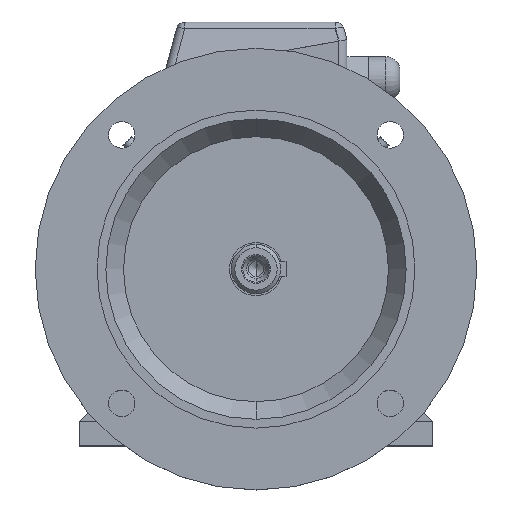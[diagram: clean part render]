
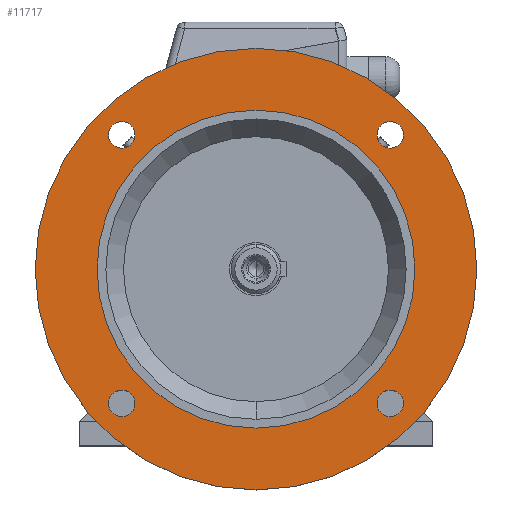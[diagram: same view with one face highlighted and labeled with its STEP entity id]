
A CAD part, top view. The second image highlights one B-rep face of the part: STEP entity #11717.
In plain terms, the highlighted planar face has unit normal (0, 0, 1).
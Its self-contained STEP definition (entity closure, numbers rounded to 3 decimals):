
#61 = EDGE_CURVE ( 'NONE', #6512, #14083, #1038, .T. ) ;
#16478 = CIRCLE ( 'NONE', #16479, 7.5 ) ;
#16479 = AXIS2_PLACEMENT_3D ( 'NONE', #16480, #16481, #16482 ) ;
#16480 = CARTESIAN_POINT ( 'NONE',  ( -76.014, -76.014, 45. ) ) ;
#16481 = DIRECTION ( 'NONE',  ( 0., 0., 1. ) ) ;
#16482 = DIRECTION ( 'NONE',  ( 1., 0., 0. ) ) ;
#16626 = EDGE_LOOP ( 'NONE', ( #5691, #14670 ) ) ;
#16634 = CARTESIAN_POINT ( 'NONE',  ( 68.514, -76.014, 45. ) ) ;
#340 = EDGE_CURVE ( 'NONE', #540, #6417, #2006, .T. ) ;
#16721 = CARTESIAN_POINT ( 'NONE',  ( 0., -90., 45. ) ) ;
#16759 = EDGE_CURVE ( 'NONE', #16347, #15030, #16967, .T. ) ;
#515 = ORIENTED_EDGE ( 'NONE', *, *, #19303, .F. ) ;
#540 = VERTEX_POINT ( 'NONE', #2759 ) ;
#16967 = CIRCLE ( 'NONE', #16968, 90. ) ;
#16968 = AXIS2_PLACEMENT_3D ( 'NONE', #16969, #16970, #16971 ) ;
#16969 = CARTESIAN_POINT ( 'NONE',  ( 0., 0., 45. ) ) ;
#16970 = DIRECTION ( 'NONE',  ( 0., 0., -1. ) ) ;
#16971 = DIRECTION ( 'NONE',  ( 0., 1., 0. ) ) ;
#17115 = ORIENTED_EDGE ( 'NONE', *, *, #16759, .T. ) ;
#760 = ORIENTED_EDGE ( 'NONE', *, *, #61, .F. ) ;
#1038 = CIRCLE ( 'NONE', #1039, 7.5 ) ;
#1039 = AXIS2_PLACEMENT_3D ( 'NONE', #1040, #1041, #1042 ) ;
#1040 = CARTESIAN_POINT ( 'NONE',  ( 76.014, 76.014, 45. ) ) ;
#1041 = DIRECTION ( 'NONE',  ( 0., 0., 1. ) ) ;
#1042 = DIRECTION ( 'NONE',  ( 1., 0., 0. ) ) ;
#18329 = EDGE_LOOP ( 'NONE', ( #10995, #17115 ) ) ;
#2006 = CIRCLE ( 'NONE', #2007, 7.5 ) ;
#2007 = AXIS2_PLACEMENT_3D ( 'NONE', #2008, #2009, #2010 ) ;
#2008 = CARTESIAN_POINT ( 'NONE',  ( -76.014, -76.014, 45. ) ) ;
#2009 = DIRECTION ( 'NONE',  ( 0., 0., 1. ) ) ;
#2010 = DIRECTION ( 'NONE',  ( 1., 0., 0. ) ) ;
#2065 = EDGE_LOOP ( 'NONE', ( #19805, #9532 ) ) ;
#18824 = CIRCLE ( 'NONE', #18825, 7.5 ) ;
#18825 = AXIS2_PLACEMENT_3D ( 'NONE', #18826, #18827, #18828 ) ;
#18826 = CARTESIAN_POINT ( 'NONE',  ( 76.014, -76.014, 45. ) ) ;
#18827 = DIRECTION ( 'NONE',  ( 0., 0., 1. ) ) ;
#18828 = DIRECTION ( 'NONE',  ( 1., 0., 0. ) ) ;
#19003 = CIRCLE ( 'NONE', #19004, 125. ) ;
#19004 = AXIS2_PLACEMENT_3D ( 'NONE', #19005, #19006, #19007 ) ;
#19005 = CARTESIAN_POINT ( 'NONE',  ( 0., 0., 45. ) ) ;
#19006 = DIRECTION ( 'NONE',  ( 0., 0., -1. ) ) ;
#19007 = DIRECTION ( 'NONE',  ( 0., 1., 0. ) ) ;
#19068 = EDGE_CURVE ( 'NONE', #10838, #16112, #18824, .T. ) ;
#2759 = CARTESIAN_POINT ( 'NONE',  ( -83.514, -76.014, 45. ) ) ;
#19303 = EDGE_CURVE ( 'NONE', #5457, #5605, #19003, .T. ) ;
#3248 = EDGE_LOOP ( 'NONE', ( #11838, #515 ) ) ;
#19805 = ORIENTED_EDGE ( 'NONE', *, *, #19068, .F. ) ;
#3600 = VERTEX_POINT ( 'NONE', #6588 ) ;
#3830 = EDGE_CURVE ( 'NONE', #12165, #3600, #6729, .T. ) ;
#5457 = VERTEX_POINT ( 'NONE', #8224 ) ;
#5605 = VERTEX_POINT ( 'NONE', #8322 ) ;
#5691 = ORIENTED_EDGE ( 'NONE', *, *, #13280, .F. ) ;
#5871 = EDGE_CURVE ( 'NONE', #5605, #5457, #8498, .T. ) ;
#6200 = ORIENTED_EDGE ( 'NONE', *, *, #340, .F. ) ;
#6417 = VERTEX_POINT ( 'NONE', #8923 ) ;
#6512 = VERTEX_POINT ( 'NONE', #9077 ) ;
#6588 = CARTESIAN_POINT ( 'NONE',  ( -68.514, 76.014, 45. ) ) ;
#6729 = CIRCLE ( 'NONE', #6730, 7.5 ) ;
#6730 = AXIS2_PLACEMENT_3D ( 'NONE', #6740, #6741, #6742 ) ;
#6740 = CARTESIAN_POINT ( 'NONE',  ( -76.014, 76.014, 45. ) ) ;
#6741 = DIRECTION ( 'NONE',  ( 0., 0., 1. ) ) ;
#6742 = DIRECTION ( 'NONE',  ( 1., 0., 0. ) ) ;
#6788 = EDGE_CURVE ( 'NONE', #14083, #6512, #9333, .T. ) ;
#8128 = EDGE_LOOP ( 'NONE', ( #760, #11839 ) ) ;
#8224 = CARTESIAN_POINT ( 'NONE',  ( 0., -125., 45. ) ) ;
#8322 = CARTESIAN_POINT ( 'NONE',  ( 0., 125., 45. ) ) ;
#8498 = CIRCLE ( 'NONE', #8499, 125. ) ;
#8499 = AXIS2_PLACEMENT_3D ( 'NONE', #8500, #8501, #8502 ) ;
#8500 = CARTESIAN_POINT ( 'NONE',  ( 0., 0., 45. ) ) ;
#8501 = DIRECTION ( 'NONE',  ( 0., 0., -1. ) ) ;
#8502 = DIRECTION ( 'NONE',  ( 0., 1., 0. ) ) ;
#8923 = CARTESIAN_POINT ( 'NONE',  ( -68.514, -76.014, 45. ) ) ;
#9027 = EDGE_LOOP ( 'NONE', ( #15832, #6200 ) ) ;
#9077 = CARTESIAN_POINT ( 'NONE',  ( 83.514, 76.014, 45. ) ) ;
#9333 = CIRCLE ( 'NONE', #9334, 7.5 ) ;
#9334 = AXIS2_PLACEMENT_3D ( 'NONE', #9335, #9336, #9337 ) ;
#9335 = CARTESIAN_POINT ( 'NONE',  ( 76.014, 76.014, 45. ) ) ;
#9336 = DIRECTION ( 'NONE',  ( 0., 0., 1. ) ) ;
#9337 = DIRECTION ( 'NONE',  ( 1., 0., 0. ) ) ;
#9532 = ORIENTED_EDGE ( 'NONE', *, *, #14851, .F. ) ;
#10838 = VERTEX_POINT ( 'NONE', #12533 ) ;
#10995 = ORIENTED_EDGE ( 'NONE', *, *, #15298, .T. ) ;
#11717 = ADVANCED_FACE ( 'NONE', ( #13247, #13257, #13258, #13259, #13260, #13261 ), #13262, .T. ) ;
#11838 = ORIENTED_EDGE ( 'NONE', *, *, #5871, .F. ) ;
#11839 = ORIENTED_EDGE ( 'NONE', *, *, #6788, .F. ) ;
#12165 = VERTEX_POINT ( 'NONE', #13705 ) ;
#12533 = CARTESIAN_POINT ( 'NONE',  ( 83.514, -76.014, 45. ) ) ;
#13247 = FACE_BOUND ( 'NONE', #16626, .T. ) ;
#13257 = FACE_BOUND ( 'NONE', #9027, .T. ) ;
#13258 = FACE_BOUND ( 'NONE', #2065, .T. ) ;
#13259 = FACE_BOUND ( 'NONE', #8128, .T. ) ;
#13260 = FACE_BOUND ( 'NONE', #18329, .T. ) ;
#13261 = FACE_OUTER_BOUND ( 'NONE', #3248, .T. ) ;
#13262 = PLANE ( 'NONE',  #13263 ) ;
#13263 = AXIS2_PLACEMENT_3D ( 'NONE', #13264, #13265, #13266 ) ;
#13264 = CARTESIAN_POINT ( 'NONE',  ( 0., 125., 45. ) ) ;
#13265 = DIRECTION ( 'NONE',  ( 0., 0., 1. ) ) ;
#13266 = DIRECTION ( 'NONE',  ( 0., -1., 0. ) ) ;
#13280 = EDGE_CURVE ( 'NONE', #3600, #12165, #14651, .T. ) ;
#13705 = CARTESIAN_POINT ( 'NONE',  ( -83.514, 76.014, 45. ) ) ;
#14083 = VERTEX_POINT ( 'NONE', #15261 ) ;
#14651 = CIRCLE ( 'NONE', #14652, 7.5 ) ;
#14652 = AXIS2_PLACEMENT_3D ( 'NONE', #14653, #14654, #14655 ) ;
#14653 = CARTESIAN_POINT ( 'NONE',  ( -76.014, 76.014, 45. ) ) ;
#14654 = DIRECTION ( 'NONE',  ( 0., 0., 1. ) ) ;
#14655 = DIRECTION ( 'NONE',  ( 1., 0., 0. ) ) ;
#14670 = ORIENTED_EDGE ( 'NONE', *, *, #3830, .F. ) ;
#14851 = EDGE_CURVE ( 'NONE', #16112, #10838, #15726, .T. ) ;
#15030 = VERTEX_POINT ( 'NONE', #15836 ) ;
#15261 = CARTESIAN_POINT ( 'NONE',  ( 68.514, 76.014, 45. ) ) ;
#15298 = EDGE_CURVE ( 'NONE', #15030, #16347, #16097, .T. ) ;
#15726 = CIRCLE ( 'NONE', #15727, 7.5 ) ;
#15727 = AXIS2_PLACEMENT_3D ( 'NONE', #15728, #15729, #15730 ) ;
#15728 = CARTESIAN_POINT ( 'NONE',  ( 76.014, -76.014, 45. ) ) ;
#15729 = DIRECTION ( 'NONE',  ( 0., 0., 1. ) ) ;
#15730 = DIRECTION ( 'NONE',  ( 1., 0., 0. ) ) ;
#15832 = ORIENTED_EDGE ( 'NONE', *, *, #15894, .F. ) ;
#15836 = CARTESIAN_POINT ( 'NONE',  ( 0., 90., 45. ) ) ;
#15894 = EDGE_CURVE ( 'NONE', #6417, #540, #16478, .T. ) ;
#16097 = CIRCLE ( 'NONE', #16098, 90. ) ;
#16098 = AXIS2_PLACEMENT_3D ( 'NONE', #16099, #16100, #16101 ) ;
#16099 = CARTESIAN_POINT ( 'NONE',  ( 0., 0., 45. ) ) ;
#16100 = DIRECTION ( 'NONE',  ( 0., 0., -1. ) ) ;
#16101 = DIRECTION ( 'NONE',  ( 0., 1., 0. ) ) ;
#16112 = VERTEX_POINT ( 'NONE', #16634 ) ;
#16347 = VERTEX_POINT ( 'NONE', #16721 ) ;
